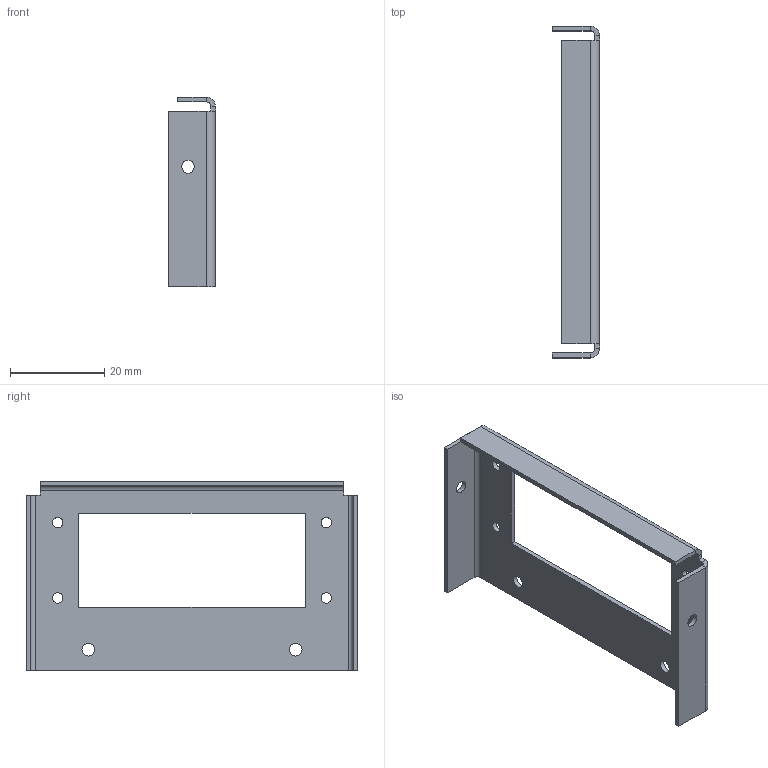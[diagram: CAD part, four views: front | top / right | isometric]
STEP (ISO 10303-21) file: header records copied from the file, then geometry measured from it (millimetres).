
FILE_DESCRIPTION(/* description */ (''),/* implementation_level */ '2;1');
FILE_NAME(/* name */ 'PDB-01-105_Rear_Bulkhead_R01.step',/* time_stamp */ '2026-11-24T01:50:37+05:00',/* author */ (''),/* organization */ (''),/* preprocessor_version */ 'ST-DEVELOPER v20.2',/* originating_system */ 'Autodesk Translation Framework v15.17.0.0',/* authorisation */ '');
FILE_SCHEMA (('AUTOMOTIVE_DESIGN { 1 0 10303 214 3 1 1 }'));
Length unit declared in the file: centimetre
Products named in the file (1): 2026-11-24-01-50-37-459
Bounding box: 10 x 70.4 x 40.3 mm (x, y, z)
Volume: 2853.7 mm3; surface area: 6172.6 mm2
Topology: 1 solids, 1 shells, 46 faces, 108 edges, 64 vertices
Faces by surface type: plane 32, cylinder 14
Full cylindrical faces by diameter (mm): 2.2 x4, 2.7 x4
Entity records: 1357 total; most frequent: DIRECTION 230, CARTESIAN_POINT 219, ORIENTED_EDGE 216, EDGE_CURVE 108, LINE 80, VECTOR 80, AXIS2_PLACEMENT_3D 75, EDGE_LOOP 64
